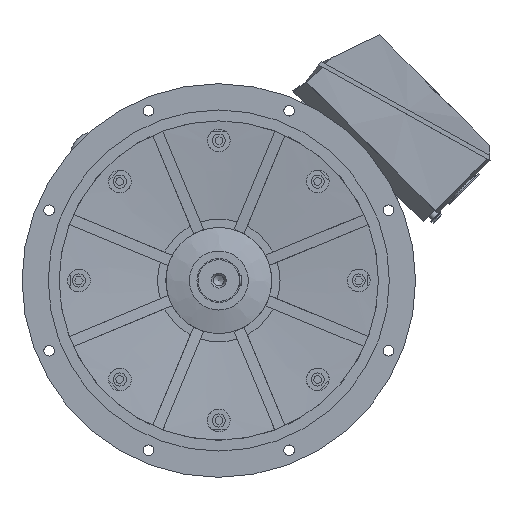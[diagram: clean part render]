
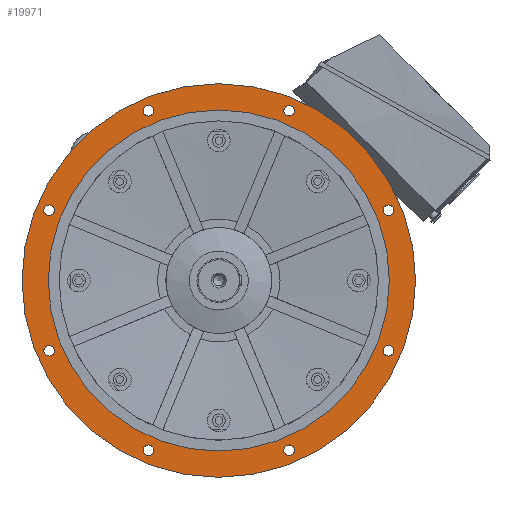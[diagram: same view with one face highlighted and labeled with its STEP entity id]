
A CAD part, left-side view. The second image highlights one B-rep face of the part: STEP entity #19971.
In plain terms, the highlighted planar face has unit normal (-1, 0, 0).
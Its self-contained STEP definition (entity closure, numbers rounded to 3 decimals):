
#1066 = EDGE_CURVE ( 'NONE', #48210, #48210, #57960, .T. ) ;
#2241 = AXIS2_PLACEMENT_3D ( 'NONE', #25888, #62245, #31080 ) ;
#2504 = AXIS2_PLACEMENT_3D ( 'NONE', #49213, #17999, #54492 ) ;
#2993 = EDGE_LOOP ( 'NONE', ( #49963 ) ) ;
#4146 = VERTEX_POINT ( 'NONE', #35731 ) ;
#4932 = VERTEX_POINT ( 'NONE', #36386 ) ;
#6673 = CIRCLE ( 'NONE', #7482, 390. ) ;
#7482 = AXIS2_PLACEMENT_3D ( 'NONE', #24458, #60848, #29654 ) ;
#8217 = FACE_BOUND ( 'NONE', #40310, .T. ) ;
#9370 = CIRCLE ( 'NONE', #32598, 12. ) ;
#9851 = FACE_BOUND ( 'NONE', #18906, .T. ) ;
#9946 = EDGE_CURVE ( 'NONE', #17230, #17230, #64114, .T. ) ;
#10197 = ORIENTED_EDGE ( 'NONE', *, *, #31704, .T. ) ;
#11489 = VERTEX_POINT ( 'NONE', #51695 ) ;
#12416 = ORIENTED_EDGE ( 'NONE', *, *, #35215, .T. ) ;
#15570 = VERTEX_POINT ( 'NONE', #45561 ) ;
#16254 = EDGE_CURVE ( 'NONE', #15570, #15570, #23253, .T. ) ;
#17230 = VERTEX_POINT ( 'NONE', #66271 ) ;
#17999 = DIRECTION ( 'NONE',  ( 1., 0., 0. ) ) ;
#18806 = VERTEX_POINT ( 'NONE', #67579 ) ;
#18906 = EDGE_LOOP ( 'NONE', ( #24898 ) ) ;
#19647 = VERTEX_POINT ( 'NONE', #20035 ) ;
#19971 = ADVANCED_FACE ( 'NONE', ( #63609, #37560, #23768, #49827, #65278, #9851, #35922, #22105, #8217, #61955 ), #36702, .T. ) ;
#20035 = CARTESIAN_POINT ( 'NONE',  ( -110., 0., 390. ) ) ;
#21099 = CARTESIAN_POINT ( 'NONE',  ( -110., 388.029, 160.727 ) ) ;
#21782 = CARTESIAN_POINT ( 'NONE',  ( -110., 388.029, -160.727 ) ) ;
#22105 = FACE_BOUND ( 'NONE', #2993, .T. ) ;
#23105 = CIRCLE ( 'NONE', #2241, 450. ) ;
#23253 = CIRCLE ( 'NONE', #2504, 12. ) ;
#23768 = FACE_BOUND ( 'NONE', #25592, .T. ) ;
#23917 = CARTESIAN_POINT ( 'NONE',  ( -110., 160.727, -388.029 ) ) ;
#24430 = ORIENTED_EDGE ( 'NONE', *, *, #1066, .T. ) ;
#24458 = CARTESIAN_POINT ( 'NONE',  ( -110., 0., 0. ) ) ;
#24898 = ORIENTED_EDGE ( 'NONE', *, *, #9946, .T. ) ;
#25592 = EDGE_LOOP ( 'NONE', ( #42617 ) ) ;
#25611 = CIRCLE ( 'NONE', #52753, 12. ) ;
#25888 = CARTESIAN_POINT ( 'NONE',  ( -110., 0., 0. ) ) ;
#26355 = DIRECTION ( 'NONE',  ( 0., 0., -1. ) ) ;
#26526 = CARTESIAN_POINT ( 'NONE',  ( -110., 420., 0. ) ) ;
#26981 = DIRECTION ( 'NONE',  ( 1., 0., 0. ) ) ;
#27014 = DIRECTION ( 'NONE',  ( 0., 0., -1. ) ) ;
#27251 = DIRECTION ( 'NONE',  ( 1., 0., 0. ) ) ;
#29111 = DIRECTION ( 'NONE',  ( 0., 0., -1. ) ) ;
#29329 = EDGE_LOOP ( 'NONE', ( #12416 ) ) ;
#29595 = CARTESIAN_POINT ( 'NONE',  ( -110., -388.029, -172.727 ) ) ;
#29654 = DIRECTION ( 'NONE',  ( 0., 0., 1. ) ) ;
#29675 = AXIS2_PLACEMENT_3D ( 'NONE', #58129, #26981, #63353 ) ;
#29982 = CARTESIAN_POINT ( 'NONE',  ( -110., 160.727, 388.029 ) ) ;
#30290 = DIRECTION ( 'NONE',  ( 1., 0., 0. ) ) ;
#31080 = DIRECTION ( 'NONE',  ( 0., 0., 1. ) ) ;
#31261 = EDGE_LOOP ( 'NONE', ( #62104 ) ) ;
#31388 = CARTESIAN_POINT ( 'NONE',  ( -110., 160.727, 376.029 ) ) ;
#31704 = EDGE_CURVE ( 'NONE', #19647, #19647, #6673, .T. ) ;
#31726 = DIRECTION ( 'NONE',  ( 0., 0., 1. ) ) ;
#32598 = AXIS2_PLACEMENT_3D ( 'NONE', #58410, #27251, #63640 ) ;
#35215 = EDGE_CURVE ( 'NONE', #4146, #4146, #65175, .T. ) ;
#35223 = DIRECTION ( 'NONE',  ( 0., 0., -1. ) ) ;
#35274 = ORIENTED_EDGE ( 'NONE', *, *, #57038, .T. ) ;
#35731 = CARTESIAN_POINT ( 'NONE',  ( -110., 160.727, -400.029 ) ) ;
#35922 = FACE_BOUND ( 'NONE', #29329, .T. ) ;
#36386 = CARTESIAN_POINT ( 'NONE',  ( -110., 388.029, 148.727 ) ) ;
#36702 = PLANE ( 'NONE',  #60364 ) ;
#37536 = EDGE_LOOP ( 'NONE', ( #57182 ) ) ;
#37560 = FACE_OUTER_BOUND ( 'NONE', #37536, .T. ) ;
#40001 = AXIS2_PLACEMENT_3D ( 'NONE', #21782, #58174, #27014 ) ;
#40310 = EDGE_LOOP ( 'NONE', ( #24430 ) ) ;
#41253 = EDGE_CURVE ( 'NONE', #11489, #11489, #23105, .T. ) ;
#41646 = CARTESIAN_POINT ( 'NONE',  ( -110., -160.727, 376.029 ) ) ;
#42617 = ORIENTED_EDGE ( 'NONE', *, *, #59122, .T. ) ;
#44888 = VERTEX_POINT ( 'NONE', #41646 ) ;
#45561 = CARTESIAN_POINT ( 'NONE',  ( -110., -160.727, -400.029 ) ) ;
#45580 = AXIS2_PLACEMENT_3D ( 'NONE', #21099, #57485, #26355 ) ;
#48210 = VERTEX_POINT ( 'NONE', #29595 ) ;
#49213 = CARTESIAN_POINT ( 'NONE',  ( -110., -160.727, -388.029 ) ) ;
#49487 = AXIS2_PLACEMENT_3D ( 'NONE', #61482, #30290, #66743 ) ;
#49827 = FACE_BOUND ( 'NONE', #31261, .T. ) ;
#49963 = ORIENTED_EDGE ( 'NONE', *, *, #16254, .T. ) ;
#51695 = CARTESIAN_POINT ( 'NONE',  ( -110., 0., 450. ) ) ;
#51709 = EDGE_LOOP ( 'NONE', ( #10197 ) ) ;
#52753 = AXIS2_PLACEMENT_3D ( 'NONE', #29982, #66442, #35223 ) ;
#54492 = DIRECTION ( 'NONE',  ( 0., 0., -1. ) ) ;
#54776 = EDGE_LOOP ( 'NONE', ( #66467 ) ) ;
#55485 = VERTEX_POINT ( 'NONE', #31388 ) ;
#56583 = EDGE_LOOP ( 'NONE', ( #35274 ) ) ;
#57038 = EDGE_CURVE ( 'NONE', #18806, #18806, #64357, .T. ) ;
#57182 = ORIENTED_EDGE ( 'NONE', *, *, #41253, .F. ) ;
#57485 = DIRECTION ( 'NONE',  ( 1., 0., 0. ) ) ;
#57566 = EDGE_CURVE ( 'NONE', #4932, #4932, #59341, .T. ) ;
#57960 = CIRCLE ( 'NONE', #29675, 12. ) ;
#58129 = CARTESIAN_POINT ( 'NONE',  ( -110., -388.029, -160.727 ) ) ;
#58174 = DIRECTION ( 'NONE',  ( 1., 0., 0. ) ) ;
#58410 = CARTESIAN_POINT ( 'NONE',  ( -110., -160.727, 388.029 ) ) ;
#59122 = EDGE_CURVE ( 'NONE', #44888, #44888, #9370, .T. ) ;
#59341 = CIRCLE ( 'NONE', #45580, 12. ) ;
#59415 = AXIS2_PLACEMENT_3D ( 'NONE', #23917, #60281, #29111 ) ;
#60281 = DIRECTION ( 'NONE',  ( 1., 0., 0. ) ) ;
#60364 = AXIS2_PLACEMENT_3D ( 'NONE', #26526, #62870, #31726 ) ;
#60848 = DIRECTION ( 'NONE',  ( 1., 0., 0. ) ) ;
#61482 = CARTESIAN_POINT ( 'NONE',  ( -110., -388.029, 160.727 ) ) ;
#61955 = FACE_BOUND ( 'NONE', #56583, .T. ) ;
#62104 = ORIENTED_EDGE ( 'NONE', *, *, #66535, .T. ) ;
#62245 = DIRECTION ( 'NONE',  ( 1., 0., 0. ) ) ;
#62870 = DIRECTION ( 'NONE',  ( -1., 0., 0. ) ) ;
#63353 = DIRECTION ( 'NONE',  ( 0., 0., -1. ) ) ;
#63609 = FACE_BOUND ( 'NONE', #51709, .T. ) ;
#63640 = DIRECTION ( 'NONE',  ( 0., 0., -1. ) ) ;
#64114 = CIRCLE ( 'NONE', #40001, 12. ) ;
#64357 = CIRCLE ( 'NONE', #49487, 12. ) ;
#65175 = CIRCLE ( 'NONE', #59415, 12. ) ;
#65278 = FACE_BOUND ( 'NONE', #54776, .T. ) ;
#66271 = CARTESIAN_POINT ( 'NONE',  ( -110., 388.029, -172.727 ) ) ;
#66442 = DIRECTION ( 'NONE',  ( 1., 0., 0. ) ) ;
#66467 = ORIENTED_EDGE ( 'NONE', *, *, #57566, .T. ) ;
#66535 = EDGE_CURVE ( 'NONE', #55485, #55485, #25611, .T. ) ;
#66743 = DIRECTION ( 'NONE',  ( 0., 0., -1. ) ) ;
#67579 = CARTESIAN_POINT ( 'NONE',  ( -110., -388.029, 148.727 ) ) ;
